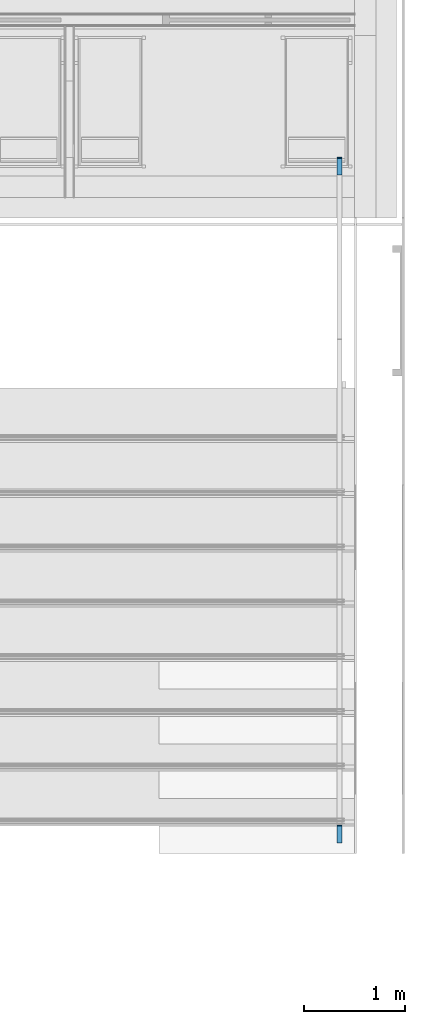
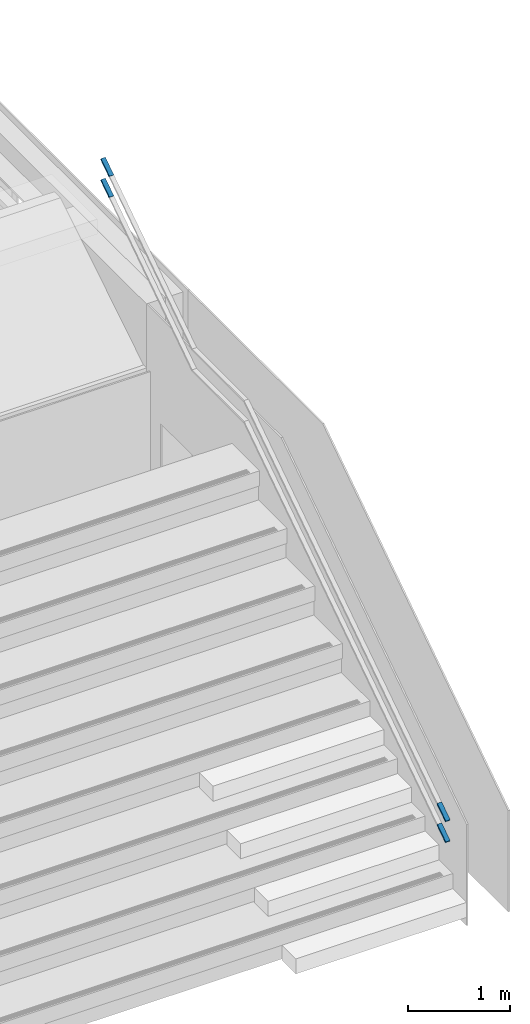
# One storey, part 10 of 167: 4 members, 2 elements without a shape of their own.
"""IFC2X3 building model written with IfcOpenShell, lengths in millimetres."""

from ifc_helpers import new_model, entity, si_unit, converted_unit, derived_unit, money_unit, direction, frame, origin_with_axes, place, context, subcontext, project, spatial, faceted_brep, material, type_object, element, aggregate, save


model = new_model("IFC2X3")

# Units and contexts
model_context = context("Model", 3, precision=0.01, world=origin_with_axes(), true_north=direction((0.0, 1.0)))
plan_context = context("Plan", 3, precision=0.01, world=origin_with_axes(), true_north=direction((0.0, 1.0)))
body_context = subcontext(model_context, "Body", "Model", "MODEL_VIEW")
ifc_project = project(units=[si_unit("LENGTHUNIT", "METRE", prefix="MILLI"), si_unit("AREAUNIT", "SQUARE_METRE"), si_unit("VOLUMEUNIT", "CUBIC_METRE"), converted_unit("PLANEANGLEUNIT", "DEGREE", entity("IfcPlaneAngleMeasure", 0.0174532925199), si_unit("PLANEANGLEUNIT", "RADIAN"), dimensions=[0, 0, 0, 0, 0, 0, 0]), si_unit("SOLIDANGLEUNIT", "STERADIAN"), money_unit("EUR"), converted_unit("TIMEUNIT", "Year", entity("IfcTimeMeasure", 31556926.0), si_unit("TIMEUNIT", "SECOND"), dimensions=[0, 0, 1, 0, 0, 0, 0]), si_unit("MASSUNIT", "GRAM", prefix="KILO"), si_unit("THERMODYNAMICTEMPERATUREUNIT", "DEGREE_CELSIUS"), si_unit("LUMINOUSINTENSITYUNIT", "LUMEN"), si_unit("ENERGYUNIT", "JOULE", prefix="MEGA"), derived_unit("THERMALCONDUCTANCEUNIT", [(si_unit("POWERUNIT", "WATT"), 1), (si_unit("LENGTHUNIT", "METRE"), -1), (si_unit("THERMODYNAMICTEMPERATUREUNIT", "KELVIN"), -1)]), derived_unit("SPECIFICHEATCAPACITYUNIT", [(si_unit("ENERGYUNIT", "JOULE"), 1), (si_unit("MASSUNIT", "GRAM", prefix="KILO"), -1), (si_unit("THERMODYNAMICTEMPERATUREUNIT", "KELVIN"), -1)]), derived_unit("MASSDENSITYUNIT", [(si_unit("MASSUNIT", "GRAM", prefix="KILO"), 1), (si_unit("VOLUMEUNIT", "CUBIC_METRE"), -1)])], contexts=[model_context, plan_context])

# Site, building, storey
site_placement = place(None, origin_with_axes())
site = spatial("IfcSite", under=ifc_project, at=site_placement, Name="Site", CompositionType="ELEMENT")
building_placement = place(site_placement, origin_with_axes())
building = spatial("IfcBuilding", under=site, at=building_placement, Name="Naam gebouw", CompositionType="ELEMENT")
storey_placement = place(building_placement, origin_with_axes())
storey = spatial("IfcBuildingStorey", under=building, at=storey_placement, Name="Begane grond", CompositionType="ELEMENT", Elevation=0.0)

# Railing, members
railing_type = type_object("IfcRailingType", Name="Railing Type", PredefinedType="NOTDEFINED")
railing_1_placement = place(storey_placement, frame((42986.011491, 28357.8807857, 360.0), z_axis=(0.0, 0.0, 1.0), x_axis=(1.0, 0.0, 0.0)))
railing_1 = element("IfcRailing", 1, at=railing_1_placement, inside=storey, type_object=railing_type, Name="34_Reling_Reling-x", PredefinedType="NOTDEFINED")
ifc_material = material(Name="Metaal - RVS")
member_type = type_object("IfcMemberType", Name="IfcMember", PredefinedType="USERDEFINED")
member_1_placement = place(railing_1_placement, origin_with_axes())
member_1 = element("IfcMember", 2, at=member_1_placement, type_object=member_type, material=ifc_material, Name="_Reling - regel_Einde handregel 1-x", context=body_context, shape_type="Brep", body=[
    faceted_brep([(-175.033824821, -5066.83456852, 900.0), (-175.033750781, -5055.74056463, 883.358994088), (-175.03486139, -5222.15062375, 772.418955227), (-175.034935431, -5233.24462764, 789.059961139), (-125.033824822, -5066.83490221, 900.0), (-125.033750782, -5055.74089833, 883.358994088), (-166.033791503, -5061.84232683, 892.511547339), (-166.033784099, -5060.73292644, 890.847446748), (-134.0337841, -5060.73314001, 890.847446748), (-134.033791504, -5061.8425404, 892.511547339), (-125.034861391, -5222.15095745, 772.418955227), (-125.034935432, -5233.24496133, 789.059961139), (-166.034902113, -5228.25238595, 781.571508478), (-134.034902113, -5228.25259952, 781.571508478), (-134.034894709, -5227.14319913, 779.907407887), (-166.034894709, -5227.14298556, 779.907407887)], [[[0, 1, 2, 3]], [[0, 4, 5, 1], [6, 7, 8, 9]], [[1, 5, 10, 2]], [[3, 2, 10, 11], [12, 13, 14, 15]], [[4, 0, 3, 11]], [[5, 4, 11, 10]], [[7, 6, 12, 15]], [[8, 7, 15, 14]], [[9, 8, 14, 13]], [[6, 9, 13, 12]]]),
])
member_2_placement = place(railing_1_placement, origin_with_axes())
member_2 = element("IfcMember", 3, at=member_2_placement, type_object=member_type, material=ifc_material, Name="_Reling - regel_Einde handregel 1-x", context=body_context, shape_type="Brep", body=[
    faceted_brep([(-124.992822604, 1350.05934391, 4500.0), (-124.992760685, 1361.15301419, 4483.35877169), (-124.991831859, 1527.56529731, 4594.29547449), (-124.991893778, 1516.47162703, 4610.9367028), (-174.992822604, 1350.05962299, 4500.0), (-174.992760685, 1361.15329327, 4483.35877169), (-133.992794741, 1355.05154577, 4492.51144726), (-133.992788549, 1356.1609128, 4490.84732443), (-165.992788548, 1356.16109141, 4490.84732443), (-165.99279474, 1355.05172438, 4492.51144726), (-174.991831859, 1527.56557638, 4594.29547449), (-174.991893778, 1516.4719061, 4610.9367028), (-133.991865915, 1521.46382889, 4603.44815006), (-165.991865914, 1521.46400749, 4603.44815006), (-165.991859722, 1522.57337452, 4601.78402723), (-133.991859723, 1522.57319591, 4601.78402723)], [[[0, 1, 2, 3]], [[0, 4, 5, 1], [6, 7, 8, 9]], [[1, 5, 10, 2]], [[3, 2, 10, 11], [12, 13, 14, 15]], [[4, 0, 3, 11]], [[5, 4, 11, 10]], [[7, 6, 12, 15]], [[8, 7, 15, 14]], [[9, 8, 14, 13]], [[6, 9, 13, 12]]]),
])
aggregate(railing_1, [member_1, member_2])

railing_2_placement = place(storey_placement, frame((42986.011491, 28357.8807857, 360.0), z_axis=(0.0, 0.0, 1.0), x_axis=(1.0, 0.0, 0.0)))
railing_2 = element("IfcRailing", 4, at=railing_2_placement, inside=storey, type_object=railing_type, Name="34_Reling_Reling-x", PredefinedType="NOTDEFINED")
member_3_placement = place(railing_2_placement, origin_with_axes())
member_3 = element("IfcMember", 5, at=member_3_placement, type_object=member_type, material=ifc_material, Name="_Reling - regel_Einde handregel 1-x", context=body_context, shape_type="Brep", body=[
    faceted_brep([(-175.033824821, -5066.83457116, 650.0), (-175.033750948, -5055.74056727, 633.358994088), (-175.034859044, -5222.15062639, 522.418955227), (-175.034932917, -5233.24463028, 539.059961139), (-125.033824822, -5066.8349041, 650.0), (-125.033750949, -5055.74090021, 633.358994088), (-166.033791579, -5061.84232934, 642.511547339), (-166.033784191, -5060.73292895, 640.847446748), (-134.033784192, -5060.73314203, 640.847446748), (-134.033791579, -5061.84254242, 642.511547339), (-125.034859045, -5222.15095933, 522.418955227), (-125.034932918, -5233.24496322, 539.059961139), (-166.034899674, -5228.25238846, 531.571508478), (-134.034899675, -5228.25260154, 531.571508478), (-134.034892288, -5227.14320115, 529.907407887), (-166.034892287, -5227.14298807, 529.907407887)], [[[0, 1, 2, 3]], [[0, 4, 5, 1], [6, 7, 8, 9]], [[1, 5, 10, 2]], [[3, 2, 10, 11], [12, 13, 14, 15]], [[4, 0, 3, 11]], [[5, 4, 11, 10]], [[7, 6, 12, 15]], [[8, 7, 15, 14]], [[9, 8, 14, 13]], [[6, 9, 13, 12]]]),
])
member_4_placement = place(railing_2_placement, origin_with_axes())
member_4 = element("IfcMember", 6, at=member_4_placement, type_object=member_type, material=ifc_material, Name="_Reling - regel_Einde handregel 1-x", context=body_context, shape_type="Brep", body=[
    faceted_brep([(-124.992822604, 1350.05936113, 4250.0), (-124.992759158, 1361.15303141, 4233.35877169), (-124.991807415, 1527.56531452, 4344.29547449), (-124.991870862, 1516.47164424, 4360.9367028), (-174.992822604, 1350.05964709, 4250.0), (-174.992759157, 1361.15331737, 4233.35877169), (-133.992794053, 1355.05156423, 4242.51144726), (-133.992787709, 1356.16093125, 4240.84732443), (-165.992787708, 1356.16111427, 4240.84732443), (-165.992794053, 1355.05174724, 4242.51144726), (-174.991807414, 1527.56560048, 4344.29547449), (-174.991870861, 1516.4719302, 4360.9367028), (-133.99184231, 1521.46384734, 4353.44815006), (-165.99184231, 1521.46403035, 4353.44815006), (-165.991835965, 1522.57339738, 4351.78402723), (-133.991835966, 1522.57321437, 4351.78402723)], [[[0, 1, 2, 3]], [[0, 4, 5, 1], [6, 7, 8, 9]], [[1, 5, 10, 2]], [[3, 2, 10, 11], [12, 13, 14, 15]], [[4, 0, 3, 11]], [[5, 4, 11, 10]], [[7, 6, 12, 15]], [[8, 7, 15, 14]], [[9, 8, 14, 13]], [[6, 9, 13, 12]]]),
])
aggregate(railing_2, [member_3, member_4])

save(model, "model.ifc")
